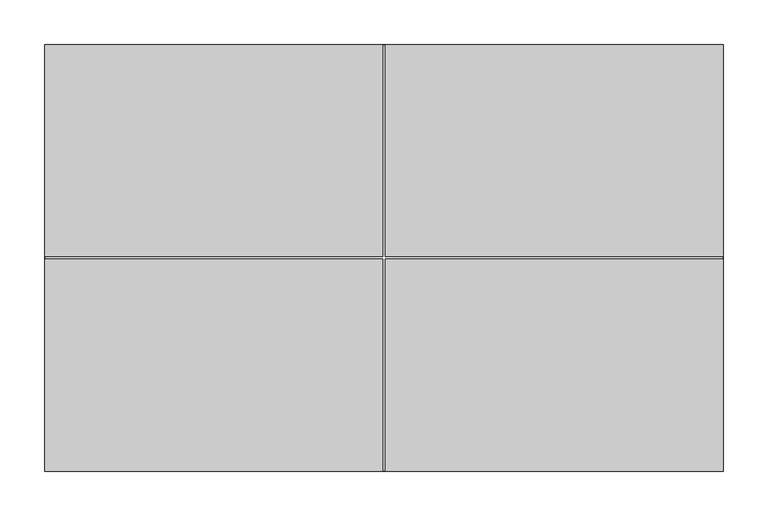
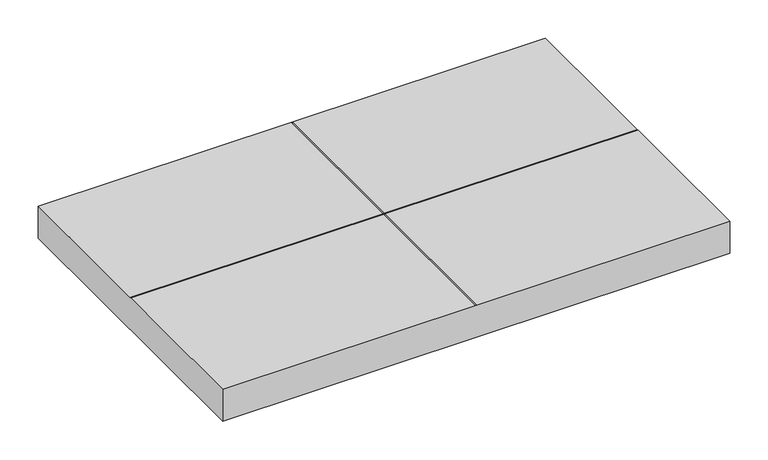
"""IFC4 building model written with IfcOpenShell, lengths in millimetres: furniture geometry, Steelcase - Universal Storage - Cushion Top - for Lateral File : Proud Steel Front - 18 7/8D x 30W."""

from ifc_helpers import new_model, si_unit, frame, origin, place, context, project, spatial, polyline, outline, extrude, source, transform, mapped, element, save


def furniture_159e4ed0(model_context):
    return source(origin(), model_context, "Body", "SweptSolid", [
        extrude(outline(polyline([(762.0, 0.0), (762.0, -479.552), (0.0, -479.552), (0.0, 0.0), (762.0, 0.0)]), holes=[polyline([(0.889, -238.887), (0.889, -240.665), (380.111, -240.665), (380.111, -478.6630015), (381.889, -478.6630015), (381.889, -240.665), (761.1109651, -240.665), (761.1109651, -238.887), (381.889, -238.887), (381.889, -0.889), (380.111, -0.889), (380.111, -238.887), (0.889, -238.887)])]), frame((0.0, 0.0, 533.4), z_axis=(0.0, 0.0, 1.0), x_axis=(1.0, 0.0, 0.0)), (0.0, 0.0, 1.0), 50.7999971),
    ])


if __name__ == "__main__":
    model = new_model("IFC4")
    model_context = context("Model", 3, world=origin())
    ifc_project = project(units=[si_unit("LENGTHUNIT", "METRE", prefix="MILLI")], contexts=[model_context])
    site = spatial("IfcSite", under=ifc_project)
    building = spatial("IfcBuilding", under=site)
    placement = place(None, origin())
    furniture_shape = furniture_159e4ed0(model_context)
    element("IfcFurniture", 1, ObjectType="Steelcase - Universal Storage - Cushion Top - for Lateral File : Proud Steel Front - 18 7/8D x 30W", at=placement, inside=building, context=model_context, shape_type="MappedRepresentation", body=[
        mapped(furniture_shape, transform((0.0, 0.0, 0.0), x_axis=(1.0, 0.0, 0.0), y_axis=(0.0, 1.0, 0.0), z_axis=(0.0, 0.0, 1.0))),
    ])
    save(model, "model.ifc")
